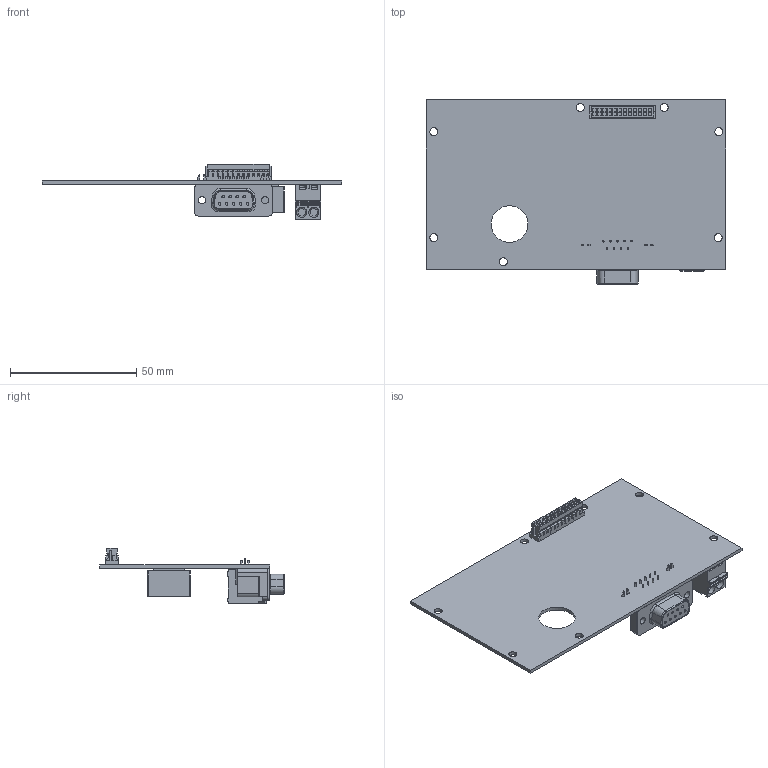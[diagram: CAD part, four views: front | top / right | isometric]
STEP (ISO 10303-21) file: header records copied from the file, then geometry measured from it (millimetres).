
FILE_DESCRIPTION(/* description */ (''),/* implementation_level */ '2;1');
FILE_NAME(/* name */ 'C:\Users\Johnny\Dropbox\NI Interface Board Assembly.stp',/* time_stamp */ '2013-12-17T17:51:30-08:00',/* author */ ('jgohata'),/* organization */ (''),/* preprocessor_version */ 'ST-DEVELOPER v15.2',/* originating_system */ 'Autodesk Inventor 2014',/* authorisation */ '');
FILE_SCHEMA (('AUTOMOTIVE_DESIGN { 1 0 10303 214 3 1 1 }'));
Length unit declared in the file: millimetre
Products named in the file (1): Total Board Assembly_Shrinkwrap_1
Bounding box: 118.6 x 72.98 x 21.79 mm (x, y, z)
Surface area: 22980.7 mm2 (no closed solid volume)
Topology: 0 solids, 5 shells, 1022 faces, 2828 edges, 1800 vertices
Faces by surface type: plane 871, cylinder 125, torus 15, cone 11
Full cylindrical faces by diameter (mm): 0.6 x9, 0.8 x9, 1 x9, 1.36 x1, 1.8 x1, 2.845 x2, 3.15 x7, 4 x2, 14.522 x1
Entity records: 32920 total; most frequent: CARTESIAN_POINT 5645, ORIENTED_EDGE 5526, DIRECTION 5113, EDGE_CURVE 2763, LINE 2441, VECTOR 2441, VERTEX_POINT 1787, AXIS2_PLACEMENT_3D 1336
